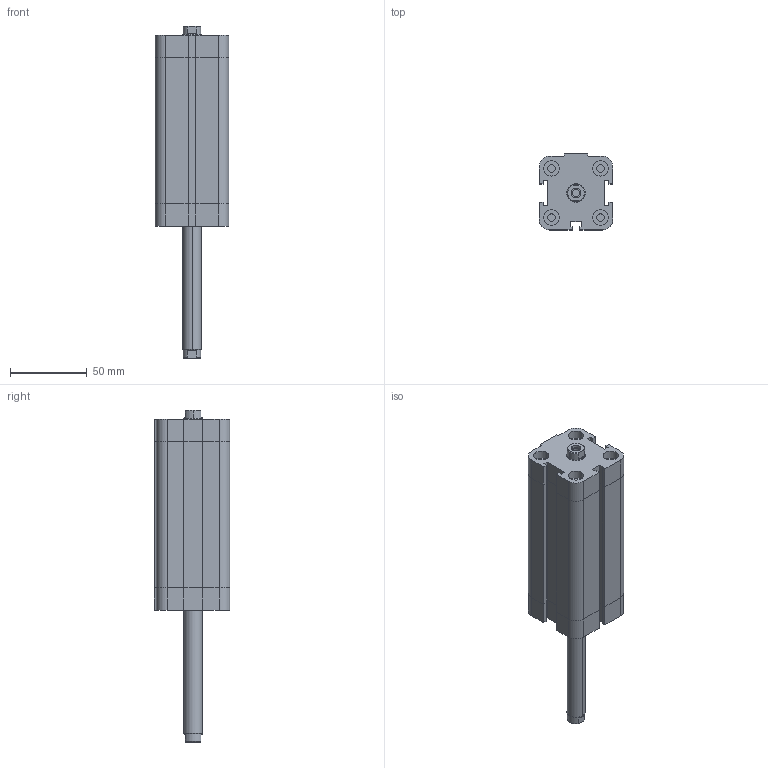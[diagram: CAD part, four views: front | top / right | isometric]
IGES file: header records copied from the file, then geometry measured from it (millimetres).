
Global section: file name: No Iges File Name specified; native system: Autodesk Inventor 2009; preprocessor: AutoDesk Inventor Iges Exporter R2009; author: maffial1; date: 20090420.200534; units: millimetre
Bounding box: 48 x 49.5 x 216.5 mm (x, y, z)
Volume: 264281.4 mm3; surface area: 49977.3 mm2
Topology: 2 solids, 2 shells, 202 faces, 450 edges, 274 vertices
Faces by surface type: plane 114, bspline 42, revolution 20, cylinder 18, cone 8
